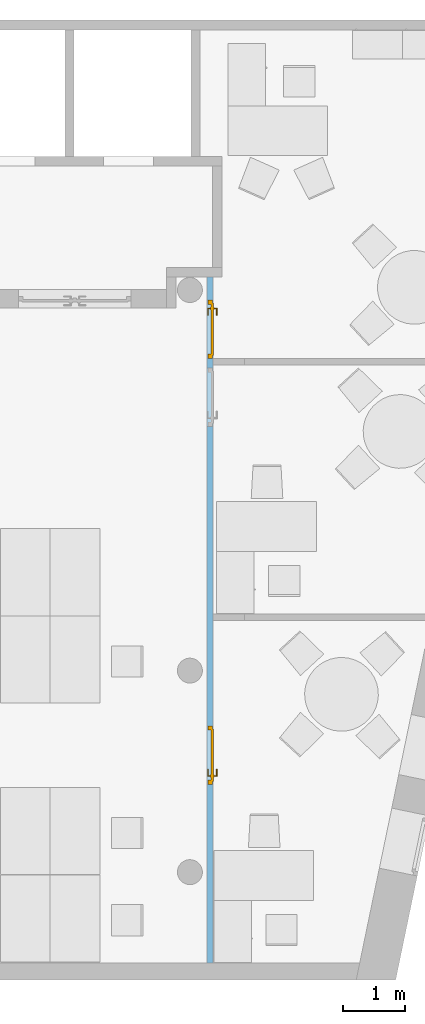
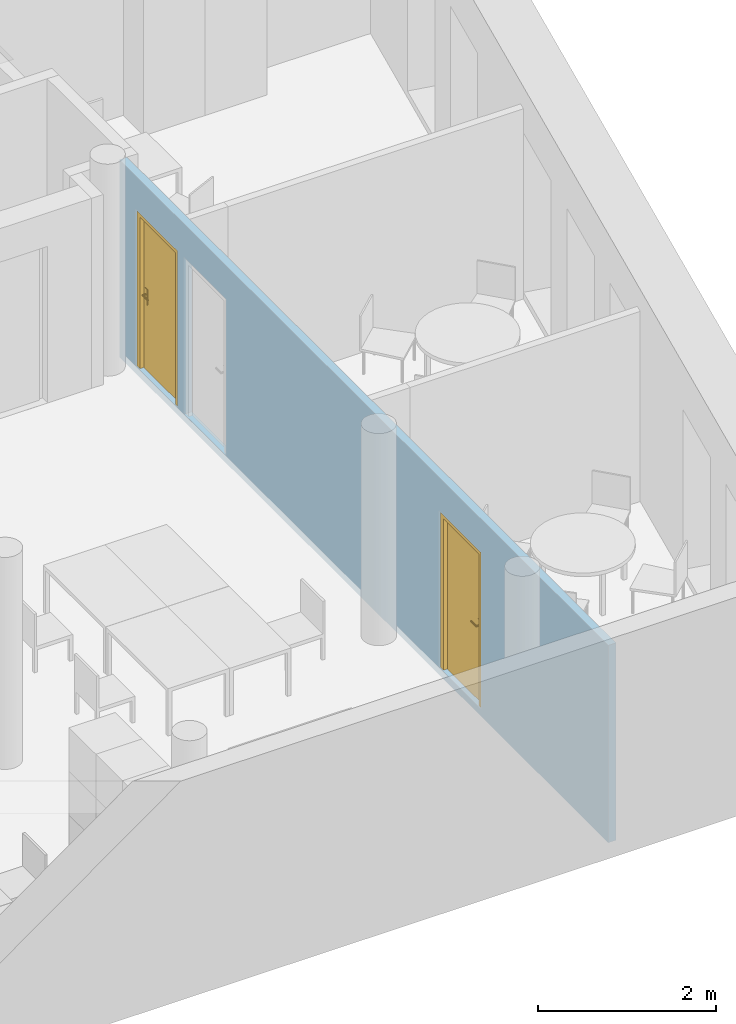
"""IFC4 building model written with IfcOpenShell, lengths in metres."""

from ifc_helpers import new_model, entity, si_unit, converted_unit, derived_unit, frame, frame_2d, origin, origin_with_axes, place, context, subcontext, project, spatial, polyline, rectangle, outline, extrude, faceted_brep, source, transform, mapped, material, layer, layer_set, layer_usage, element, fill, save


model = new_model("IFC4")

# Units and contexts
model_context = context("Model", 3, precision=1e-05, world=origin())
body_context = subcontext(model_context, "Body", "Model", "MODEL_VIEW")
ifc_project = project(units=[si_unit("LENGTHUNIT", "METRE"), si_unit("AREAUNIT", "SQUARE_METRE"), si_unit("VOLUMEUNIT", "CUBIC_METRE"), si_unit("MASSUNIT", "GRAM", prefix="KILO"), converted_unit("PLANEANGLEUNIT", "DEGREE", entity("IfcPlaneAngleMeasure", 0.0174532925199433), si_unit("PLANEANGLEUNIT", "RADIAN"), dimensions=[0, 0, 0, 0, 0, 0, 0]), derived_unit("THERMALTRANSMITTANCEUNIT", [(si_unit("POWERUNIT", "WATT"), 1), (si_unit("THERMODYNAMICTEMPERATUREUNIT", "KELVIN"), -1), (si_unit("LENGTHUNIT", "METRE"), -2)]), derived_unit("VOLUMETRICFLOWRATEUNIT", [(si_unit("LENGTHUNIT", "METRE"), 3), (converted_unit("TIMEUNIT", "hour", entity("IfcTimeMeasure", 3600.0), si_unit("TIMEUNIT", "SECOND"), dimensions=[0, 0, 1, 0, 0, 0, 0]), -1), (si_unit("LENGTHUNIT", "METRE"), -1)])], contexts=[model_context])

# Building, storeys
building_placement = place(None, origin())
building = spatial("IfcBuilding", under=ifc_project, at=building_placement, Name="HABITATGE PLURIFAMILIAR", CompositionType="ELEMENT")
storey_1_placement = place(building_placement, frame((0.0, 0.0, 12.27)))
storey_1 = spatial("IfcBuildingStorey", under=building, at=storey_1_placement, Name="PLANTA TERCERA", CompositionType="ELEMENT", Elevation=12.27)
storey_2_placement = place(storey_1_placement, frame((0.0, 0.0, 9.26)))
storey_2 = spatial("IfcBuildingStorey", under=storey_1, at=storey_2_placement, Name="NOU", CompositionType="PARTIAL")

# Wall, openings, doors
ifc_material = material()
ifc_layer = layer(ifc_material, 0.1)
ifc_layer_set = layer_set([ifc_layer])
ifc_layer_usage = layer_usage(ifc_layer_set, "AXIS2", "POSITIVE", 0.0)
wall_placement = place(storey_2_placement, frame((421.265852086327, 24.1094598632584, -9.36), z_axis=(0.0, 0.0, 1.0), x_axis=(0.0, -1.0, 0.0)))
wall = element("IfcWall", 1, at=wall_placement, inside=storey_2, material=ifc_layer_usage, Name="Mampara P3", context=body_context, shape_type="SweptSolid", body=[
    extrude(rectangle(XDim=10.9988477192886, YDim=0.1, at=frame_2d((5.49942385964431, 0.05), x_axis=(1.0, 0.0))), origin_with_axes(), (0.0, 0.0, 1.0), 2.71),
])
opening_1_placement = place(wall_placement, frame((7.19486664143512, 0.0, 0.1), z_axis=(0.0, 1.0, 0.0), x_axis=(0.0, 0.0, 1.0)))
opening_1 = element("IfcOpeningElement", 2, at=opening_1_placement, cuts=wall, Name="Vano porta P3", ObjectType="Opening", context=body_context, shape_type="SweptSolid", body=[
    extrude(outline(polyline([(2.15, 0.939999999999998), (2.15, 0.0), (0.0, 0.0), (0.0, 0.939999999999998), (2.15, 0.939999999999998)])), origin_with_axes(), (0.0, 0.0, 1.0), 0.1),
])
opening_2_placement = place(wall_placement, frame((0.36871722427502, 0.0, 0.1), z_axis=(0.0, 1.0, 0.0), x_axis=(0.0, 0.0, 1.0)))
opening_2 = element("IfcOpeningElement", 3, at=opening_2_placement, cuts=wall, Name="Vano porta P3", ObjectType="Opening", context=body_context, shape_type="SweptSolid", body=[
    extrude(outline(polyline([(2.15, 0.94), (2.15, 0.0), (0.0, 0.0), (0.0, 0.94), (2.15, 0.94)])), origin_with_axes(), (0.0, 0.0, 1.0), 0.1),
])
opening_3_placement = place(wall_placement, frame((1.45871722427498, 0.0, 0.1), z_axis=(0.0, 1.0, 0.0), x_axis=(0.0, 0.0, 1.0)))
element("IfcOpeningElement", 4, at=opening_3_placement, cuts=wall, Name="Vano porta P3", ObjectType="Opening", context=body_context, shape_type="SweptSolid", body=[
    extrude(outline(polyline([(2.15, 0.94), (2.15, 0.0), (0.0, 0.0), (0.0, 0.94), (2.15, 0.94)])), origin_with_axes(), (0.0, 0.0, 1.0), 0.1),
])
shared_shape_1 = source(origin_with_axes(), body_context, "Body", "Brep", [
    faceted_brep([(0.940000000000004, 0.0699999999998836, 2.15), (0.870000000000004, 0.0699999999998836, 2.15), (0.870000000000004, 0.0699999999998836, 0.0), (0.940000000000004, 0.0699999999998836, 0.0), (0.940000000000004, 0.0, 0.0), (0.870000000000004, 0.0, 0.0), (0.870000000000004, 0.0, 2.15), (0.940000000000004, 0.0, 2.15)], [[[0, 1, 2, 3]], [[4, 5, 6, 7]], [[3, 4, 7, 0]], [[2, 5, 4, 3]], [[1, 6, 5, 2]], [[0, 7, 6, 1]]], orient=[[False], [False], [False], [False], [False], [False]]),
    faceted_brep([(0.0700000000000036, 0.0699999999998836, 2.15), (0.0, 0.0699999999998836, 2.15), (0.0, 0.0699999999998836, 0.0), (0.0700000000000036, 0.0699999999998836, 0.0), (0.0700000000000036, 0.0, 0.0), (0.0, 0.0, 0.0), (0.0, 0.0, 2.15), (0.0700000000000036, 0.0, 2.15)], [[[0, 1, 2, 3]], [[4, 5, 6, 7]], [[3, 4, 7, 0]], [[2, 5, 4, 3]], [[1, 6, 5, 2]], [[0, 7, 6, 1]]], orient=[[False], [False], [False], [False], [False], [False]]),
    faceted_brep([(0.870000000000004, 0.0699999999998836, 2.15), (0.0700000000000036, 0.0699999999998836, 2.15), (0.0700000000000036, 0.0699999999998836, 2.08), (0.870000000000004, 0.0699999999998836, 2.08), (0.870000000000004, 0.0, 2.08), (0.0700000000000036, 0.0, 2.08), (0.0700000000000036, 0.0, 2.15), (0.870000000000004, 0.0, 2.15)], [[[0, 1, 2, 3]], [[4, 5, 6, 7]], [[3, 4, 7, 0]], [[2, 5, 4, 3]], [[1, 6, 5, 2]], [[0, 7, 6, 1]]], orient=[[False], [False], [False], [False], [False], [False]]),
    faceted_brep([(0.890000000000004, 0.0899999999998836, 2.1), (0.0500000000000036, 0.0899999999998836, 2.1), (0.0500000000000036, 0.0899999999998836, 0.0), (0.890000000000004, 0.0899999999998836, 0.0), (0.890000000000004, 0.0499999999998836, 0.0), (0.0500000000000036, 0.0499999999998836, 0.0), (0.0500000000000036, 0.0499999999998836, 2.1), (0.890000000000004, 0.0499999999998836, 2.1)], [[[0, 1, 2, 3]], [[4, 5, 6, 7]], [[3, 4, 7, 0]], [[2, 5, 4, 3]], [[1, 6, 5, 2]], [[0, 7, 6, 1]]], orient=[[False], [False], [False], [False], [False], [False]]),
    faceted_brep([(0.830000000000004, 0.0499999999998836, 1.125), (0.780000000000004, 0.0499999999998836, 1.125), (0.780000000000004, 0.0499999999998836, 0.91), (0.830000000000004, 0.0499999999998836, 0.91), (0.830000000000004, 0.0399999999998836, 0.91), (0.780000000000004, 0.0399999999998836, 0.91), (0.780000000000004, 0.0399999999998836, 1.125), (0.830000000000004, 0.0399999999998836, 1.125)], [[[0, 1, 2, 3]], [[4, 5, 6, 7]], [[3, 4, 7, 0]], [[2, 5, 4, 3]], [[1, 6, 5, 2]], [[0, 7, 6, 1]]], orient=[[False], [False], [False], [False], [False], [False]]),
    faceted_brep([(0.805000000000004, 0.0399999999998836, 1.06), (0.800000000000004, 0.0399999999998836, 1.05866025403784), (0.796339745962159, 0.0399999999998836, 1.055), (0.795000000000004, 0.0399999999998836, 1.05), (0.796339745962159, 0.0399999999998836, 1.045), (0.800000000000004, 0.0399999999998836, 1.04133974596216), (0.805000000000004, 0.0399999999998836, 1.04), (0.810000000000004, 0.0399999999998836, 1.04133974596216), (0.813660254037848, 0.0399999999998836, 1.045), (0.815000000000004, 0.0399999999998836, 1.05), (0.813660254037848, 0.0399999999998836, 1.055), (0.810000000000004, 0.0399999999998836, 1.05866025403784), (0.810000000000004, -0.00500000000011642, 1.05866025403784), (0.805000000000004, 0.0, 1.06), (0.813660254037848, -0.00866025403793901, 1.055), (0.815000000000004, -0.0100000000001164, 1.05), (0.813660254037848, -0.00866025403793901, 1.045), (0.810000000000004, -0.00500000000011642, 1.04133974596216), (0.805000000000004, 0.0, 1.04), (0.800000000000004, 0.00499999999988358, 1.04133974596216), (0.796339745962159, 0.00866025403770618, 1.045), (0.795000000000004, 0.00999999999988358, 1.05), (0.796339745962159, 0.00866025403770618, 1.055), (0.800000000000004, 0.00499999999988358, 1.05866025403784), (0.690000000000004, 0.0, 1.06), (0.690000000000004, -0.00500000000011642, 1.05866025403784), (0.690000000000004, -0.00866025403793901, 1.055), (0.690000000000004, -0.0100000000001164, 1.05), (0.690000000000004, -0.00866025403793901, 1.045), (0.690000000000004, -0.00500000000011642, 1.04133974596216), (0.690000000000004, 0.0, 1.04), (0.690000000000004, 0.00499999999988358, 1.04133974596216), (0.690000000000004, 0.00866025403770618, 1.045), (0.690000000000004, 0.00999999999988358, 1.05), (0.690000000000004, 0.00866025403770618, 1.055), (0.690000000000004, 0.00499999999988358, 1.05866025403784)], [[[0, 1, 2, 3, 4, 5, 6, 7, 8, 9, 10, 11]], [[0, 11, 12, 13]], [[11, 10, 14, 12]], [[10, 9, 15, 14]], [[9, 8, 16, 15]], [[8, 7, 17, 16]], [[7, 6, 18, 17]], [[6, 5, 19, 18]], [[5, 4, 20, 19]], [[4, 3, 21, 20]], [[3, 2, 22, 21]], [[2, 1, 23, 22]], [[1, 0, 13, 23]], [[24, 25, 26, 27, 28, 29, 30, 31, 32, 33, 34, 35]], [[13, 12, 25, 24]], [[12, 14, 26, 25]], [[14, 15, 27, 26]], [[15, 16, 28, 27]], [[16, 17, 29, 28]], [[17, 18, 30, 29]], [[18, 19, 31, 30]], [[19, 20, 32, 31]], [[20, 21, 33, 32]], [[21, 22, 34, 33]], [[22, 23, 35, 34]], [[23, 13, 24, 35]]], orient=[[False], [False], [False], [False], [False], [False], [False], [False], [False], [False], [False], [False], [False], [False], [False], [False], [False], [False], [False], [False], [False], [False], [False], [False], [False], [False]]),
    faceted_brep([(0.830000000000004, 0.0899999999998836, 1.125), (0.830000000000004, 0.0899999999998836, 0.91), (0.780000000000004, 0.0899999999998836, 0.91), (0.780000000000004, 0.0899999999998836, 1.125), (0.830000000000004, 0.0999999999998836, 0.91), (0.830000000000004, 0.0999999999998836, 1.125), (0.780000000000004, 0.0999999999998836, 1.125), (0.780000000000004, 0.0999999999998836, 0.91)], [[[0, 1, 2, 3]], [[4, 5, 6, 7]], [[1, 0, 5, 4]], [[2, 1, 4, 7]], [[3, 2, 7, 6]], [[0, 3, 6, 5]]], orient=[[False], [False], [False], [False], [False], [False]]),
    faceted_brep([(0.805000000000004, 0.0999999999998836, 1.06), (0.810000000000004, 0.0999999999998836, 1.05866025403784), (0.813660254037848, 0.0999999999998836, 1.055), (0.815000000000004, 0.0999999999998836, 1.05), (0.813660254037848, 0.0999999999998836, 1.045), (0.810000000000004, 0.0999999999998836, 1.04133974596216), (0.805000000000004, 0.0999999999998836, 1.04), (0.800000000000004, 0.0999999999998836, 1.04133974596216), (0.796339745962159, 0.0999999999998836, 1.045), (0.795000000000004, 0.0999999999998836, 1.05), (0.796339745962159, 0.0999999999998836, 1.055), (0.800000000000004, 0.0999999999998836, 1.05866025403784), (0.805000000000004, 0.139999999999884, 1.06), (0.810000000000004, 0.144999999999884, 1.05866025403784), (0.813660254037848, 0.148660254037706, 1.055), (0.815000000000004, 0.149999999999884, 1.05), (0.813660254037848, 0.148660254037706, 1.045), (0.810000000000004, 0.144999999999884, 1.04133974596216), (0.805000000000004, 0.139999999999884, 1.04), (0.800000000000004, 0.134999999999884, 1.04133974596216), (0.796339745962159, 0.131339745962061, 1.045), (0.795000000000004, 0.129999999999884, 1.05), (0.796339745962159, 0.131339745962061, 1.055), (0.800000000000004, 0.134999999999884, 1.05866025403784), (0.690000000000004, 0.139999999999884, 1.06), (0.690000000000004, 0.134999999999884, 1.05866025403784), (0.690000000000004, 0.131339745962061, 1.055), (0.690000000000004, 0.129999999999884, 1.05), (0.690000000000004, 0.131339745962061, 1.045), (0.690000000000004, 0.134999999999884, 1.04133974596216), (0.690000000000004, 0.139999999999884, 1.04), (0.690000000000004, 0.144999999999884, 1.04133974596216), (0.690000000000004, 0.148660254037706, 1.045), (0.690000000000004, 0.149999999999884, 1.05), (0.690000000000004, 0.148660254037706, 1.055), (0.690000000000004, 0.144999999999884, 1.05866025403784)], [[[0, 1, 2, 3, 4, 5, 6, 7, 8, 9, 10, 11]], [[0, 12, 13, 1]], [[1, 13, 14, 2]], [[2, 14, 15, 3]], [[3, 15, 16, 4]], [[4, 16, 17, 5]], [[5, 17, 18, 6]], [[6, 18, 19, 7]], [[7, 19, 20, 8]], [[8, 20, 21, 9]], [[9, 21, 22, 10]], [[10, 22, 23, 11]], [[11, 23, 12, 0]], [[24, 25, 26, 27, 28, 29, 30, 31, 32, 33, 34, 35]], [[12, 24, 35, 13]], [[13, 35, 34, 14]], [[14, 34, 33, 15]], [[15, 33, 32, 16]], [[16, 32, 31, 17]], [[17, 31, 30, 18]], [[18, 30, 29, 19]], [[19, 29, 28, 20]], [[20, 28, 27, 21]], [[21, 27, 26, 22]], [[22, 26, 25, 23]], [[23, 25, 24, 12]]], orient=[[False], [False], [False], [False], [False], [False], [False], [False], [False], [False], [False], [False], [False], [False], [False], [False], [False], [False], [False], [False], [False], [False], [False], [False], [False], [False]]),
])
door_1_placement = place(opening_1_placement, frame((0.0, 0.0, 0.015), z_axis=(1.0, 0.0, 0.0), x_axis=(0.0, 1.0, 0.0)))
door_1 = element("IfcDoor", 5, at=door_1_placement, inside=storey_2, Name="Porta P3", OperationType="USERDEFINED", OverallHeight=2.15, OverallWidth=0.94, PredefinedType="DOOR", context=body_context, shape_type="MappedRepresentation", body=[
    mapped(shared_shape_1, transform((0.0, 0.0, 0.0), x_axis=(1.0, 0.0, 0.0), y_axis=(0.0, 1.0, 0.0), z_axis=(0.0, 0.0, 1.0), scale=1.0)),
])
fill(opening_1, door_1)
shared_shape_2 = source(origin_with_axes(), body_context, "Body", "Brep", [
    faceted_brep([(0.0, 0.0699999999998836, 2.15), (0.0, 0.0699999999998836, 0.0), (0.0700000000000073, 0.0699999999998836, 0.0), (0.0700000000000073, 0.0699999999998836, 2.15), (0.0, 0.0, 0.0), (0.0, 0.0, 2.15), (0.0700000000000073, 0.0, 2.15), (0.0700000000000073, 0.0, 0.0)], [[[0, 1, 2, 3]], [[4, 5, 6, 7]], [[1, 0, 5, 4]], [[2, 1, 4, 7]], [[3, 2, 7, 6]], [[0, 3, 6, 5]]], orient=[[False], [False], [False], [False], [False], [False]]),
    faceted_brep([(0.870000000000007, 0.0699999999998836, 2.15), (0.870000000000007, 0.0699999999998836, 0.0), (0.940000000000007, 0.0699999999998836, 0.0), (0.940000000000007, 0.0699999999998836, 2.15), (0.870000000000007, 0.0, 0.0), (0.870000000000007, 0.0, 2.15), (0.940000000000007, 0.0, 2.15), (0.940000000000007, 0.0, 0.0)], [[[0, 1, 2, 3]], [[4, 5, 6, 7]], [[1, 0, 5, 4]], [[2, 1, 4, 7]], [[3, 2, 7, 6]], [[0, 3, 6, 5]]], orient=[[False], [False], [False], [False], [False], [False]]),
    faceted_brep([(0.0700000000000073, 0.0699999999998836, 2.15), (0.0700000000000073, 0.0699999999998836, 2.08), (0.870000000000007, 0.0699999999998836, 2.08), (0.870000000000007, 0.0699999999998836, 2.15), (0.0700000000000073, 0.0, 2.08), (0.0700000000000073, 0.0, 2.15), (0.870000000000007, 0.0, 2.15), (0.870000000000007, 0.0, 2.08)], [[[0, 1, 2, 3]], [[4, 5, 6, 7]], [[1, 0, 5, 4]], [[2, 1, 4, 7]], [[3, 2, 7, 6]], [[0, 3, 6, 5]]], orient=[[False], [False], [False], [False], [False], [False]]),
    faceted_brep([(0.0500000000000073, 0.0899999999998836, 2.1), (0.0500000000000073, 0.0899999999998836, 0.0), (0.890000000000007, 0.0899999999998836, 0.0), (0.890000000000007, 0.0899999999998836, 2.1), (0.0500000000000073, 0.0499999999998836, 0.0), (0.0500000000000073, 0.0499999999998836, 2.1), (0.890000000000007, 0.0499999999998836, 2.1), (0.890000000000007, 0.0499999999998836, 0.0)], [[[0, 1, 2, 3]], [[4, 5, 6, 7]], [[1, 0, 5, 4]], [[2, 1, 4, 7]], [[3, 2, 7, 6]], [[0, 3, 6, 5]]], orient=[[False], [False], [False], [False], [False], [False]]),
    faceted_brep([(0.110000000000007, 0.0499999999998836, 1.125), (0.110000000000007, 0.0499999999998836, 0.91), (0.160000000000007, 0.0499999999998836, 0.91), (0.160000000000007, 0.0499999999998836, 1.125), (0.110000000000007, 0.0399999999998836, 0.91), (0.110000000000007, 0.0399999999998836, 1.125), (0.160000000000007, 0.0399999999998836, 1.125), (0.160000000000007, 0.0399999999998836, 0.91)], [[[0, 1, 2, 3]], [[4, 5, 6, 7]], [[1, 0, 5, 4]], [[2, 1, 4, 7]], [[3, 2, 7, 6]], [[0, 3, 6, 5]]], orient=[[False], [False], [False], [False], [False], [False]]),
    faceted_brep([(0.135000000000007, 0.0399999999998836, 1.06), (0.130000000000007, 0.0399999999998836, 1.05866025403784), (0.126339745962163, 0.0399999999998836, 1.055), (0.125000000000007, 0.0399999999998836, 1.05), (0.126339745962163, 0.0399999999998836, 1.045), (0.130000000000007, 0.0399999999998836, 1.04133974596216), (0.135000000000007, 0.0399999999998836, 1.04), (0.140000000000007, 0.0399999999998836, 1.04133974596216), (0.143660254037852, 0.0399999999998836, 1.045), (0.145000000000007, 0.0399999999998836, 1.05), (0.143660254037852, 0.0399999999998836, 1.055), (0.140000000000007, 0.0399999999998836, 1.05866025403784), (0.135000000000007, 0.0, 1.06), (0.130000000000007, -0.00500000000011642, 1.05866025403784), (0.126339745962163, -0.00866025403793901, 1.055), (0.125000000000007, -0.0100000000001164, 1.05), (0.126339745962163, -0.00866025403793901, 1.045), (0.130000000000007, -0.00500000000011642, 1.04133974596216), (0.135000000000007, 0.0, 1.04), (0.140000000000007, 0.00499999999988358, 1.04133974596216), (0.143660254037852, 0.00866025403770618, 1.045), (0.145000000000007, 0.00999999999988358, 1.05), (0.143660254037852, 0.00866025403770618, 1.055), (0.140000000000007, 0.00499999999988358, 1.05866025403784), (0.250000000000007, 0.0, 1.06), (0.250000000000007, 0.00499999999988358, 1.05866025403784), (0.250000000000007, 0.00866025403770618, 1.055), (0.250000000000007, 0.00999999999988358, 1.05), (0.250000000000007, 0.00866025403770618, 1.045), (0.250000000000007, 0.00499999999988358, 1.04133974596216), (0.250000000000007, 0.0, 1.04), (0.250000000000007, -0.00500000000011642, 1.04133974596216), (0.250000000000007, -0.00866025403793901, 1.045), (0.250000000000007, -0.0100000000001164, 1.05), (0.250000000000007, -0.00866025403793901, 1.055), (0.250000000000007, -0.00500000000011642, 1.05866025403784)], [[[0, 1, 2, 3, 4, 5, 6, 7, 8, 9, 10, 11]], [[0, 12, 13, 1]], [[1, 13, 14, 2]], [[2, 14, 15, 3]], [[3, 15, 16, 4]], [[4, 16, 17, 5]], [[5, 17, 18, 6]], [[6, 18, 19, 7]], [[7, 19, 20, 8]], [[8, 20, 21, 9]], [[9, 21, 22, 10]], [[10, 22, 23, 11]], [[11, 23, 12, 0]], [[24, 25, 26, 27, 28, 29, 30, 31, 32, 33, 34, 35]], [[12, 24, 35, 13]], [[13, 35, 34, 14]], [[14, 34, 33, 15]], [[15, 33, 32, 16]], [[16, 32, 31, 17]], [[17, 31, 30, 18]], [[18, 30, 29, 19]], [[19, 29, 28, 20]], [[20, 28, 27, 21]], [[21, 27, 26, 22]], [[22, 26, 25, 23]], [[23, 25, 24, 12]]], orient=[[False], [False], [False], [False], [False], [False], [False], [False], [False], [False], [False], [False], [False], [False], [False], [False], [False], [False], [False], [False], [False], [False], [False], [False], [False], [False]]),
    faceted_brep([(0.110000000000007, 0.0899999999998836, 1.125), (0.160000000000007, 0.0899999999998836, 1.125), (0.160000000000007, 0.0899999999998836, 0.91), (0.110000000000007, 0.0899999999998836, 0.91), (0.110000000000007, 0.0999999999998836, 0.91), (0.160000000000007, 0.0999999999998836, 0.91), (0.160000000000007, 0.0999999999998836, 1.125), (0.110000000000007, 0.0999999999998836, 1.125)], [[[0, 1, 2, 3]], [[4, 5, 6, 7]], [[3, 4, 7, 0]], [[2, 5, 4, 3]], [[1, 6, 5, 2]], [[0, 7, 6, 1]]], orient=[[False], [False], [False], [False], [False], [False]]),
    faceted_brep([(0.135000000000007, 0.0999999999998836, 1.06), (0.140000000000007, 0.0999999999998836, 1.05866025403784), (0.143660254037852, 0.0999999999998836, 1.055), (0.145000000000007, 0.0999999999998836, 1.05), (0.143660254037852, 0.0999999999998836, 1.045), (0.140000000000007, 0.0999999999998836, 1.04133974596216), (0.135000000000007, 0.0999999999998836, 1.04), (0.130000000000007, 0.0999999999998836, 1.04133974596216), (0.126339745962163, 0.0999999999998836, 1.045), (0.125000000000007, 0.0999999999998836, 1.05), (0.126339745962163, 0.0999999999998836, 1.055), (0.130000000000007, 0.0999999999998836, 1.05866025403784), (0.130000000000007, 0.144999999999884, 1.05866025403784), (0.135000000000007, 0.139999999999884, 1.06), (0.126339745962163, 0.148660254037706, 1.055), (0.125000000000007, 0.149999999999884, 1.05), (0.126339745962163, 0.148660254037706, 1.045), (0.130000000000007, 0.144999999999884, 1.04133974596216), (0.135000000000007, 0.139999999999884, 1.04), (0.140000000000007, 0.134999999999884, 1.04133974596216), (0.143660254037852, 0.131339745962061, 1.045), (0.145000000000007, 0.129999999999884, 1.05), (0.143660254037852, 0.131339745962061, 1.055), (0.140000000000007, 0.134999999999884, 1.05866025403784), (0.250000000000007, 0.139999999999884, 1.06), (0.250000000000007, 0.144999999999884, 1.05866025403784), (0.250000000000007, 0.148660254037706, 1.055), (0.250000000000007, 0.149999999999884, 1.05), (0.250000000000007, 0.148660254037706, 1.045), (0.250000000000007, 0.144999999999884, 1.04133974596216), (0.250000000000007, 0.139999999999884, 1.04), (0.250000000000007, 0.134999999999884, 1.04133974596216), (0.250000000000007, 0.131339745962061, 1.045), (0.250000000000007, 0.129999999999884, 1.05), (0.250000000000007, 0.131339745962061, 1.055), (0.250000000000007, 0.134999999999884, 1.05866025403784)], [[[0, 1, 2, 3, 4, 5, 6, 7, 8, 9, 10, 11]], [[0, 11, 12, 13]], [[11, 10, 14, 12]], [[10, 9, 15, 14]], [[9, 8, 16, 15]], [[8, 7, 17, 16]], [[7, 6, 18, 17]], [[6, 5, 19, 18]], [[5, 4, 20, 19]], [[4, 3, 21, 20]], [[3, 2, 22, 21]], [[2, 1, 23, 22]], [[1, 0, 13, 23]], [[24, 25, 26, 27, 28, 29, 30, 31, 32, 33, 34, 35]], [[13, 12, 25, 24]], [[12, 14, 26, 25]], [[14, 15, 27, 26]], [[15, 16, 28, 27]], [[16, 17, 29, 28]], [[17, 18, 30, 29]], [[18, 19, 31, 30]], [[19, 20, 32, 31]], [[20, 21, 33, 32]], [[21, 22, 34, 33]], [[22, 23, 35, 34]], [[23, 13, 24, 35]]], orient=[[False], [False], [False], [False], [False], [False], [False], [False], [False], [False], [False], [False], [False], [False], [False], [False], [False], [False], [False], [False], [False], [False], [False], [False], [False], [False]]),
])
door_2_placement = place(opening_2_placement, frame((0.0, 0.0, 0.015), z_axis=(1.0, 0.0, 0.0), x_axis=(0.0, 1.0, 0.0)))
door_2 = element("IfcDoor", 6, at=door_2_placement, inside=storey_2, Name="Porta P3", OperationType="USERDEFINED", OverallHeight=2.15, OverallWidth=0.94, PredefinedType="DOOR", context=body_context, shape_type="MappedRepresentation", body=[
    mapped(shared_shape_2, transform((0.0, 0.0, 0.0), x_axis=(1.0, 0.0, 0.0), y_axis=(0.0, 1.0, 0.0), z_axis=(0.0, 0.0, 1.0), scale=1.0)),
])
fill(opening_2, door_2)

save(model, "model.ifc")
